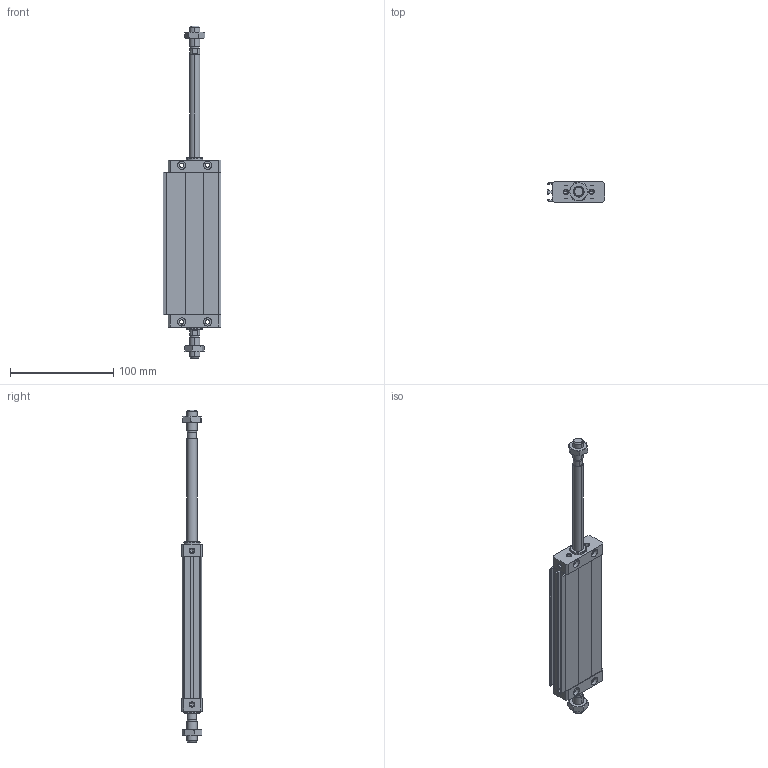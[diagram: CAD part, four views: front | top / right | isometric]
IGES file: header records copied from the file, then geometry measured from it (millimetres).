
Global section: file name: No Iges File Name specified; native system: Autodesk Inventor 2011; preprocessor: AutoDesk Inventor Iges Exporter R2011; author: airolcr1; date: 20101213.152825; units: millimetre
Bounding box: 56.25 x 20 x 322 mm (x, y, z)
Volume: 128952.5 mm3; surface area: 64152.2 mm2
Topology: 6 solids, 6 shells, 282 faces, 664 edges, 392 vertices
Faces by surface type: bspline 117, plane 97, cone 36, cylinder 18, revolution 14
